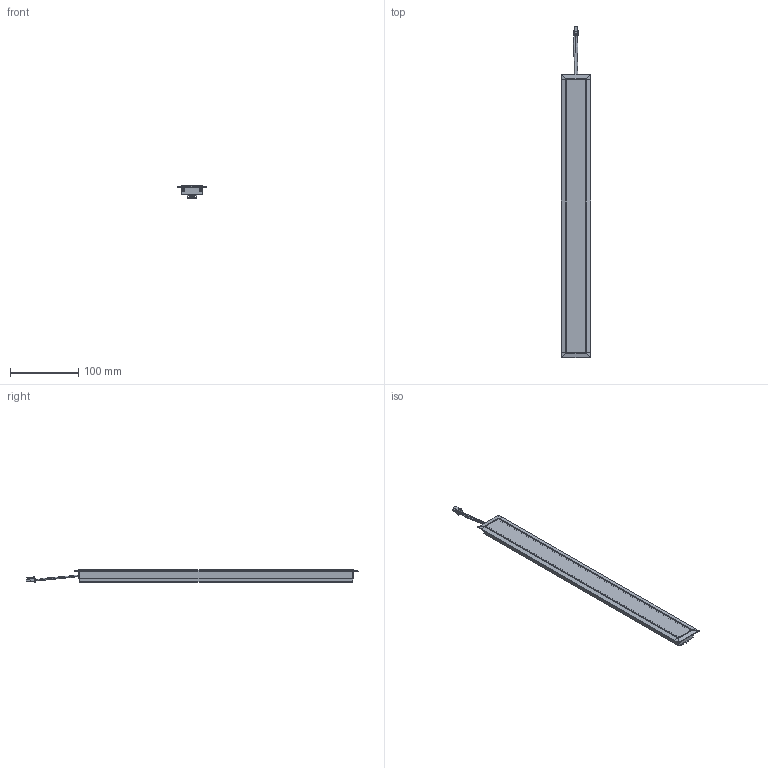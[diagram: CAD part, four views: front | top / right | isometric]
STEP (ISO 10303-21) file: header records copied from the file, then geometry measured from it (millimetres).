
FILE_DESCRIPTION (( 'STEP AP214' ), '1' );
FILE_NAME ('ChietiCompleto.STEP', '2022-02-18T08:07:57', ( '' ), ( '' ), 'SwSTEP 2.0', 'SolidWorks 2021', '' );
FILE_SCHEMA (( 'AUTOMOTIVE_DESIGN' ));
Length unit declared in the file: millimetre
Products named in the file (1): ChietiCompleto
Bounding box: 42.87 x 486.51 x 17.7 mm (x, y, z)
Surface area: 106399.1 mm2 (no closed solid volume)
Topology: 0 solids, 9 shells, 395 faces, 1063 edges, 676 vertices
Faces by surface type: plane 247, cylinder 84, cone 40, bspline 17, torus 4, sphere 3
Entity records: 21285 total; most frequent: CARTESIAN_POINT 7110, ORIENTED_EDGE 2110, DIRECTION 1915, EDGE_CURVE 1055, LINE 765, VECTOR 765, VERTEX_POINT 676, AXIS2_PLACEMENT_3D 575
